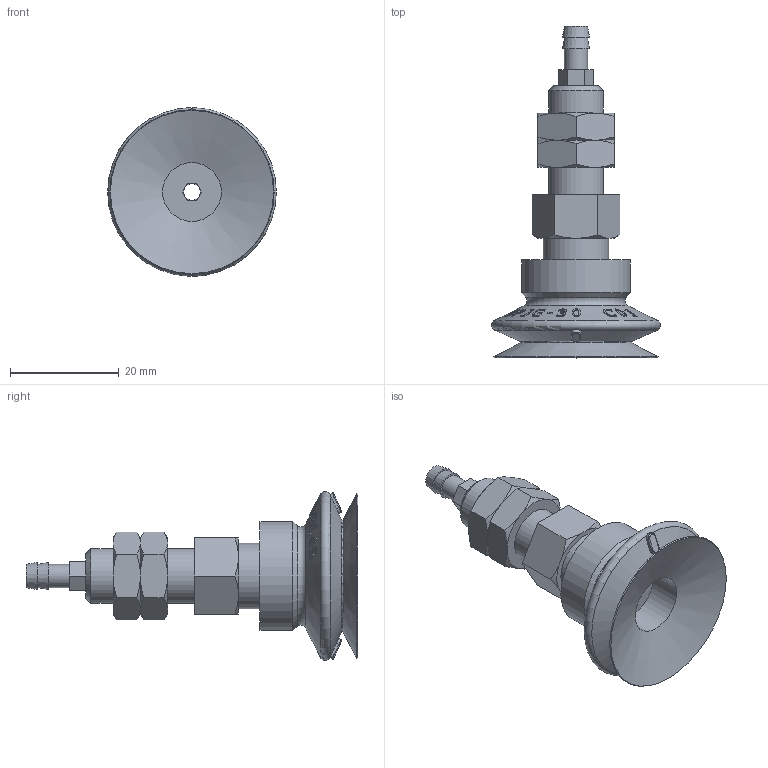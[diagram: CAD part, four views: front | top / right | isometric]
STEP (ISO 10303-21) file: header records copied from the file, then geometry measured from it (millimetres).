
FILE_DESCRIPTION(('STEP AP214'),'1');
FILE_NAME('.stp','2026-01-20T08:08:57',(' '),(' '),'Spatial InterOp 3D',' ',' ');
FILE_SCHEMA(('AUTOMOTIVE_DESIGN { 1 0 10303 214 1 1 1 1 }'));
Length unit declared in the file: millimetre
Products named in the file (5): BBPJTK-30-※; BPJG-30-※; Adapter-30-PJ; NUT-30-PJ_K; BPJTK-30
Assembly tree (5 placements, depth 2):
  BBPJTK-30-※
    BPJG-30-※
    Adapter-30-PJ
    NUT-30-PJ_K  x2
    BPJTK-30
Bounding box: 30.99 x 61 x 30.99 mm (x, y, z)
Volume: 10247.3 mm3; surface area: 7503.9 mm2
Topology: 5 solids, 5 shells, 756 faces, 2114 edges, 1391 vertices
Faces by surface type: plane 665, cone 62, cylinder 22, torus 7
Full cylindrical faces by diameter (mm): 3 x2, 4.134 x1, 4.26 x1, 4.917 x1, 5.8 x1, 6 x1, 8.376 x2, 10 x1, 10.8 x1, 11 x1, 12 x1, 20 x1
Entity records: 30353 total; most frequent: CARTESIAN_POINT 7626, ORIENTED_EDGE 4058, DIRECTION 2523, EDGE_CURVE 2029, VERTEX_POINT 1358, B_SPLINE_CURVE_WITH_KNOTS 1068, LINE 877, VECTOR 877
